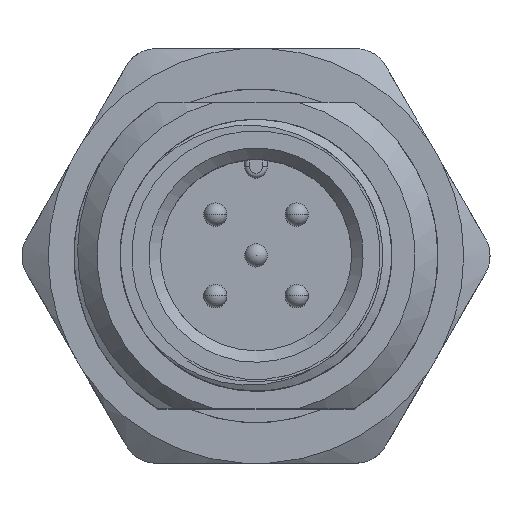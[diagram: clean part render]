
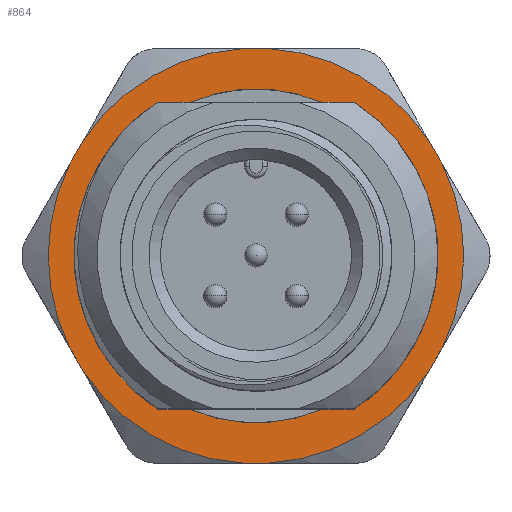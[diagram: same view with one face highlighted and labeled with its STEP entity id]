
A CAD part, top view. The second image highlights one B-rep face of the part: STEP entity #864.
In plain terms, the highlighted planar face has unit normal (0, 0, 1).
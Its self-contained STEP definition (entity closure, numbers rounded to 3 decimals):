
#208=FACE_BOUND('',#1555,.T.);
#209=FACE_BOUND('',#1556,.T.);
#404=PLANE('',#5250);
#468=CIRCLE('',#5071,7.9);
#471=CIRCLE('',#5078,7.25);
#472=CIRCLE('',#5080,7.25);
#473=CIRCLE('',#5082,7.9);
#544=CIRCLE('',#5242,9.02);
#545=CIRCLE('',#5243,9.02);
#546=CIRCLE('',#5244,9.02);
#547=CIRCLE('',#5245,9.02);
#548=CIRCLE('',#5246,9.02);
#549=CIRCLE('',#5247,9.02);
#550=CIRCLE('',#5248,7.25);
#551=CIRCLE('',#5249,7.25);
#864=ADVANCED_FACE('',(#208,#209),#404,.T.);
#1555=EDGE_LOOP('',(#2621,#2622,#2623,#2624,#2625,#2626,#2627,#2628,#2629,
#2630,#2631,#2632));
#1556=EDGE_LOOP('',(#2633,#2634,#2635,#2636,#2637,#2638,#2639,#2640,#2641,
#2642,#2643,#2644));
#1917=B_SPLINE_CURVE_WITH_KNOTS('',3,(#12420,#12421,#12422,#12423),
 .UNSPECIFIED.,.F.,.F.,(4,4),(0.,1.),.UNSPECIFIED.);
#1925=B_SPLINE_CURVE_WITH_KNOTS('',3,(#15441,#15442,#15443,#15444,#15445,
#15446),.UNSPECIFIED.,.F.,.F.,(4,2,4),(0.,0.5,1.),.UNSPECIFIED.);
#1936=B_SPLINE_CURVE_WITH_KNOTS('',3,(#16223,#16224,#16225,#16226),
 .UNSPECIFIED.,.F.,.F.,(4,4),(0.,1.),.UNSPECIFIED.);
#2621=ORIENTED_EDGE('',*,*,#4233,.F.);
#2622=ORIENTED_EDGE('',*,*,#4234,.T.);
#2623=ORIENTED_EDGE('',*,*,#4235,.F.);
#2624=ORIENTED_EDGE('',*,*,#4236,.T.);
#2625=ORIENTED_EDGE('',*,*,#4237,.F.);
#2626=ORIENTED_EDGE('',*,*,#4238,.T.);
#2627=ORIENTED_EDGE('',*,*,#4239,.F.);
#2628=ORIENTED_EDGE('',*,*,#4240,.T.);
#2629=ORIENTED_EDGE('',*,*,#4241,.F.);
#2630=ORIENTED_EDGE('',*,*,#4242,.T.);
#2631=ORIENTED_EDGE('',*,*,#4243,.F.);
#2632=ORIENTED_EDGE('',*,*,#4244,.T.);
#2633=ORIENTED_EDGE('',*,*,#4017,.F.);
#2634=ORIENTED_EDGE('',*,*,#3976,.T.);
#2635=ORIENTED_EDGE('',*,*,#4149,.F.);
#2636=ORIENTED_EDGE('',*,*,#4232,.T.);
#2637=ORIENTED_EDGE('',*,*,#4245,.F.);
#2638=ORIENTED_EDGE('',*,*,#4033,.F.);
#2639=ORIENTED_EDGE('',*,*,#4246,.F.);
#2640=ORIENTED_EDGE('',*,*,#4038,.F.);
#2641=ORIENTED_EDGE('',*,*,#4157,.F.);
#2642=ORIENTED_EDGE('',*,*,#4039,.T.);
#2643=ORIENTED_EDGE('',*,*,#3985,.F.);
#2644=ORIENTED_EDGE('',*,*,#4247,.F.);
#3445=VERTEX_POINT('',#6998);
#3478=VERTEX_POINT('',#7140);
#3494=VERTEX_POINT('',#7204);
#3495=VERTEX_POINT('',#7205);
#3500=VERTEX_POINT('',#7231);
#3502=VERTEX_POINT('',#7234);
#3533=VERTEX_POINT('',#7371);
#3542=VERTEX_POINT('',#7804);
#3543=VERTEX_POINT('',#7834);
#3544=VERTEX_POINT('',#7838);
#3596=VERTEX_POINT('',#12419);
#3646=VERTEX_POINT('',#16196);
#3647=VERTEX_POINT('',#16200);
#3648=VERTEX_POINT('',#16201);
#3649=VERTEX_POINT('',#16203);
#3650=VERTEX_POINT('',#16205);
#3651=VERTEX_POINT('',#16207);
#3652=VERTEX_POINT('',#16209);
#3653=VERTEX_POINT('',#16211);
#3654=VERTEX_POINT('',#16213);
#3655=VERTEX_POINT('',#16215);
#3656=VERTEX_POINT('',#16217);
#3657=VERTEX_POINT('',#16219);
#3658=VERTEX_POINT('',#16221);
#3976=EDGE_CURVE('',#3494,#3495,#468,.T.);
#3985=EDGE_CURVE('',#3500,#3502,#4660,.T.);
#4017=EDGE_CURVE('',#3494,#3533,#4676,.T.);
#4033=EDGE_CURVE('',#3445,#3542,#471,.T.);
#4038=EDGE_CURVE('',#3543,#3478,#472,.T.);
#4039=EDGE_CURVE('',#3544,#3502,#473,.T.);
#4149=EDGE_CURVE('',#3596,#3495,#1917,.T.);
#4157=EDGE_CURVE('',#3544,#3543,#1925,.T.);
#4232=EDGE_CURVE('',#3596,#3646,#4718,.T.);
#4233=EDGE_CURVE('',#3647,#3648,#544,.T.);
#4234=EDGE_CURVE('',#3647,#3649,#4719,.T.);
#4235=EDGE_CURVE('',#3650,#3649,#545,.T.);
#4236=EDGE_CURVE('',#3650,#3651,#4720,.T.);
#4237=EDGE_CURVE('',#3652,#3651,#546,.T.);
#4238=EDGE_CURVE('',#3652,#3653,#4721,.T.);
#4239=EDGE_CURVE('',#3654,#3653,#547,.T.);
#4240=EDGE_CURVE('',#3654,#3655,#4722,.T.);
#4241=EDGE_CURVE('',#3656,#3655,#548,.T.);
#4242=EDGE_CURVE('',#3656,#3657,#4723,.T.);
#4243=EDGE_CURVE('',#3658,#3657,#549,.T.);
#4244=EDGE_CURVE('',#3658,#3648,#4724,.T.);
#4245=EDGE_CURVE('',#3542,#3646,#1936,.T.);
#4246=EDGE_CURVE('',#3478,#3445,#550,.T.);
#4247=EDGE_CURVE('',#3533,#3500,#551,.T.);
#4660=LINE('',#7233,#4880);
#4676=LINE('',#7370,#4896);
#4718=LINE('',#16197,#4938);
#4719=LINE('',#16202,#4939);
#4720=LINE('',#16206,#4940);
#4721=LINE('',#16210,#4941);
#4722=LINE('',#16214,#4942);
#4723=LINE('',#16218,#4943);
#4724=LINE('',#16222,#4944);
#4880=VECTOR('',#5683,1.);
#4896=VECTOR('',#5699,1.);
#4938=VECTOR('',#6071,1.);
#4939=VECTOR('',#6076,1.);
#4940=VECTOR('',#6079,1.);
#4941=VECTOR('',#6082,1.);
#4942=VECTOR('',#6085,1.);
#4943=VECTOR('',#6088,1.);
#4944=VECTOR('',#6091,1.);
#5071=AXIS2_PLACEMENT_3D('',#7203,#5670,#5671);
#5078=AXIS2_PLACEMENT_3D('',#7803,#5711,#5712);
#5080=AXIS2_PLACEMENT_3D('',#7835,#5715,#5716);
#5082=AXIS2_PLACEMENT_3D('',#7837,#5719,#5720);
#5242=AXIS2_PLACEMENT_3D('',#16199,#6074,#6075);
#5243=AXIS2_PLACEMENT_3D('',#16204,#6077,#6078);
#5244=AXIS2_PLACEMENT_3D('',#16208,#6080,#6081);
#5245=AXIS2_PLACEMENT_3D('',#16212,#6083,#6084);
#5246=AXIS2_PLACEMENT_3D('',#16216,#6086,#6087);
#5247=AXIS2_PLACEMENT_3D('',#16220,#6089,#6090);
#5248=AXIS2_PLACEMENT_3D('',#16227,#6092,#6093);
#5249=AXIS2_PLACEMENT_3D('',#16228,#6094,#6095);
#5250=AXIS2_PLACEMENT_3D('',#16229,#6096,#6097);
#5670=DIRECTION('',(0.,0.,-1.));
#5671=DIRECTION('',(1.,0.,0.));
#5683=DIRECTION('',(1.,0.,0.));
#5699=DIRECTION('',(1.,0.,0.));
#5711=DIRECTION('',(0.,0.,1.));
#5712=DIRECTION('',(1.,0.,0.));
#5715=DIRECTION('',(0.,0.,1.));
#5716=DIRECTION('',(1.,0.,0.));
#5719=DIRECTION('',(0.,0.,-1.));
#5720=DIRECTION('',(1.,0.,0.));
#6071=DIRECTION('',(-0.985,0.175,0.));
#6074=DIRECTION('',(0.,0.,-1.));
#6075=DIRECTION('',(-1.,0.,0.));
#6076=DIRECTION('',(-0.5,-0.866,0.));
#6077=DIRECTION('',(0.,0.,-1.));
#6078=DIRECTION('',(-1.,0.,0.));
#6079=DIRECTION('',(0.5,-0.866,0.));
#6080=DIRECTION('',(0.,0.,-1.));
#6081=DIRECTION('',(-1.,0.,0.));
#6082=DIRECTION('',(1.,0.,0.));
#6083=DIRECTION('',(0.,0.,-1.));
#6084=DIRECTION('',(-1.,0.,0.));
#6085=DIRECTION('',(0.5,0.866,0.));
#6086=DIRECTION('',(0.,0.,-1.));
#6087=DIRECTION('',(-1.,0.,0.));
#6088=DIRECTION('',(-0.5,0.866,0.));
#6089=DIRECTION('',(0.,0.,-1.));
#6090=DIRECTION('',(-1.,0.,0.));
#6091=DIRECTION('',(-1.,0.,0.));
#6092=DIRECTION('',(0.,0.,1.));
#6093=DIRECTION('',(1.,0.,0.));
#6094=DIRECTION('',(0.,0.,1.));
#6095=DIRECTION('',(1.,0.,0.));
#6096=DIRECTION('',(0.,0.,1.));
#6097=DIRECTION('',(1.,0.,0.));
#6998=CARTESIAN_POINT('',(-2.888,6.65,10.8));
#7140=CARTESIAN_POINT('',(2.888,6.65,10.8));
#7203=CARTESIAN_POINT('',(0.,0.,10.8));
#7204=CARTESIAN_POINT('',(-4.265,-6.65,10.8));
#7205=CARTESIAN_POINT('',(-5.177,-5.967,10.8));
#7231=CARTESIAN_POINT('',(2.888,-6.65,10.8));
#7233=CARTESIAN_POINT('',(12.251,-6.65,10.8));
#7234=CARTESIAN_POINT('',(4.265,-6.65,10.8));
#7370=CARTESIAN_POINT('',(12.251,-6.65,10.8));
#7371=CARTESIAN_POINT('',(-2.888,-6.65,10.8));
#7803=CARTESIAN_POINT('',(0.,0.,10.8));
#7804=CARTESIAN_POINT('',(-6.735,2.685,10.8));
#7834=CARTESIAN_POINT('',(6.564,3.077,10.8));
#7835=CARTESIAN_POINT('',(0.,0.,10.8));
#7837=CARTESIAN_POINT('',(0.,0.,10.8));
#7838=CARTESIAN_POINT('',(5.834,-5.327,10.8));
#12419=CARTESIAN_POINT('',(-7.218,1.286,10.8));
#12420=CARTESIAN_POINT('',(-7.218,1.286,10.8));
#12421=CARTESIAN_POINT('',(-7.877,-1.283,10.8));
#12422=CARTESIAN_POINT('',(-7.052,-4.095,10.8));
#12423=CARTESIAN_POINT('',(-5.177,-5.967,10.8));
#15441=CARTESIAN_POINT('',(5.834,-5.327,10.8));
#15442=CARTESIAN_POINT('',(6.768,-4.149,10.8));
#15443=CARTESIAN_POINT('',(7.345,-2.72,10.8));
#15444=CARTESIAN_POINT('',(7.617,0.238,10.8));
#15445=CARTESIAN_POINT('',(7.305,1.766,10.8));
#15446=CARTESIAN_POINT('',(6.564,3.077,10.8));
#16196=CARTESIAN_POINT('',(-7.22,1.286,10.8));
#16197=CARTESIAN_POINT('',(0.,0.,10.8));
#16199=CARTESIAN_POINT('',(0.,0.,10.8));
#16200=CARTESIAN_POINT('',(-7.497,5.015,10.8));
#16201=CARTESIAN_POINT('',(-0.595,9.,10.8));
#16202=CARTESIAN_POINT('',(-5.052,9.25,10.8));
#16203=CARTESIAN_POINT('',(-8.092,3.985,10.8));
#16204=CARTESIAN_POINT('',(0.,0.,10.8));
#16205=CARTESIAN_POINT('',(-8.092,-3.985,10.8));
#16206=CARTESIAN_POINT('',(-10.537,0.25,10.8));
#16207=CARTESIAN_POINT('',(-7.497,-5.015,10.8));
#16208=CARTESIAN_POINT('',(0.,0.,10.8));
#16209=CARTESIAN_POINT('',(-0.595,-9.,10.8));
#16210=CARTESIAN_POINT('',(-5.485,-9.,10.8));
#16211=CARTESIAN_POINT('',(0.595,-9.,10.8));
#16212=CARTESIAN_POINT('',(0.,0.,10.8));
#16213=CARTESIAN_POINT('',(7.497,-5.015,10.8));
#16214=CARTESIAN_POINT('',(5.052,-9.25,10.8));
#16215=CARTESIAN_POINT('',(8.092,-3.985,10.8));
#16216=CARTESIAN_POINT('',(0.,0.,10.8));
#16217=CARTESIAN_POINT('',(8.092,3.985,10.8));
#16218=CARTESIAN_POINT('',(10.537,-0.25,10.8));
#16219=CARTESIAN_POINT('',(7.497,5.015,10.8));
#16220=CARTESIAN_POINT('',(0.,0.,10.8));
#16221=CARTESIAN_POINT('',(0.595,9.,10.8));
#16222=CARTESIAN_POINT('',(5.485,9.,10.8));
#16223=CARTESIAN_POINT('',(-6.735,2.685,10.8));
#16224=CARTESIAN_POINT('',(-6.943,2.238,10.8));
#16225=CARTESIAN_POINT('',(-7.106,1.766,10.8));
#16226=CARTESIAN_POINT('',(-7.22,1.286,10.8));
#16227=CARTESIAN_POINT('',(0.,0.,10.8));
#16228=CARTESIAN_POINT('',(0.,0.,10.8));
#16229=CARTESIAN_POINT('',(0.,0.,10.8));
